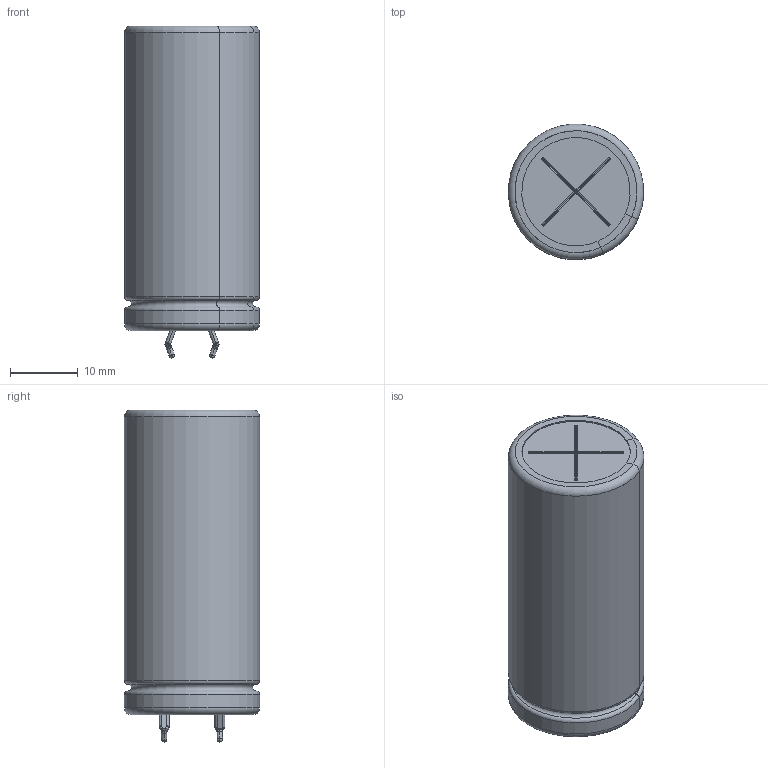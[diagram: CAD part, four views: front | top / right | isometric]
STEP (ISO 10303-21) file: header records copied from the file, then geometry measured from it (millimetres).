
FILE_DESCRIPTION(/* description */ (''),/* implementation_level */ '2;1');
FILE_NAME(/* name */ '20x45_Snap.stp',/* time_stamp */ '2017-09-11T13:57:07+09:00',/* author */ (''),/* organization */ (''),/* preprocessor_version */ 'ST-DEVELOPER v16',/* originating_system */ 'SIEMENS PLM Software NX 11.0',/* authorisation */ '');
FILE_SCHEMA (('AUTOMOTIVE_DESIGN { 1 0 10303 214 3 1 1 1 }'));
Length unit declared in the file: millimetre
Products named in the file (1): 20x45_Snap_0
Bounding box: 19.94 x 19.94 x 49.02 mm (x, y, z)
Volume: 13981.4 mm3; surface area: 9626.4 mm2
Topology: 5 solids, 5 shells, 208 faces, 523 edges, 310 vertices
Faces by surface type: cylinder 76, plane 75, torus 25, sphere 20, bspline 12
Full cylindrical faces by diameter (mm): 4 x2, 19.6 x2
Entity records: 6789 total; most frequent: CARTESIAN_POINT 1265, DIRECTION 1128, ORIENTED_EDGE 988, EDGE_CURVE 494, AXIS2_PLACEMENT_3D 437, VERTEX_POINT 310, LINE 254, VECTOR 254
